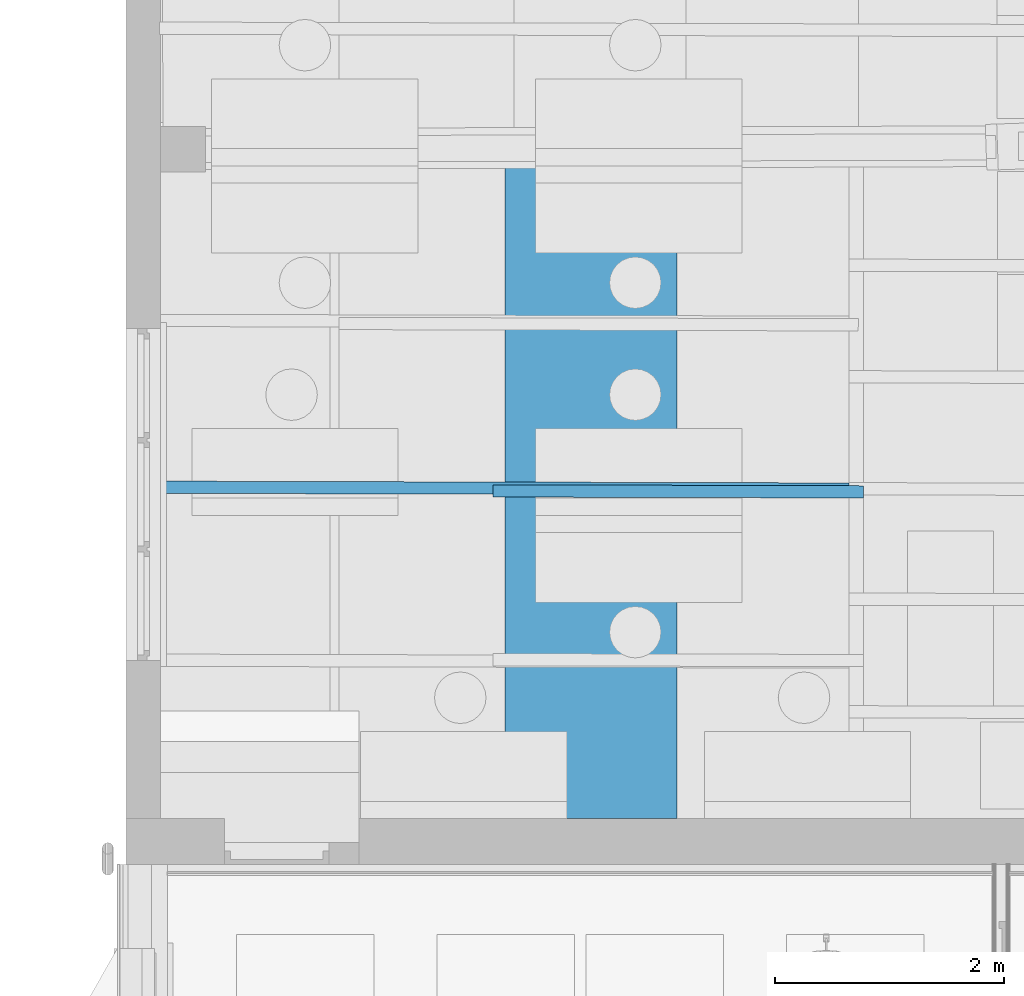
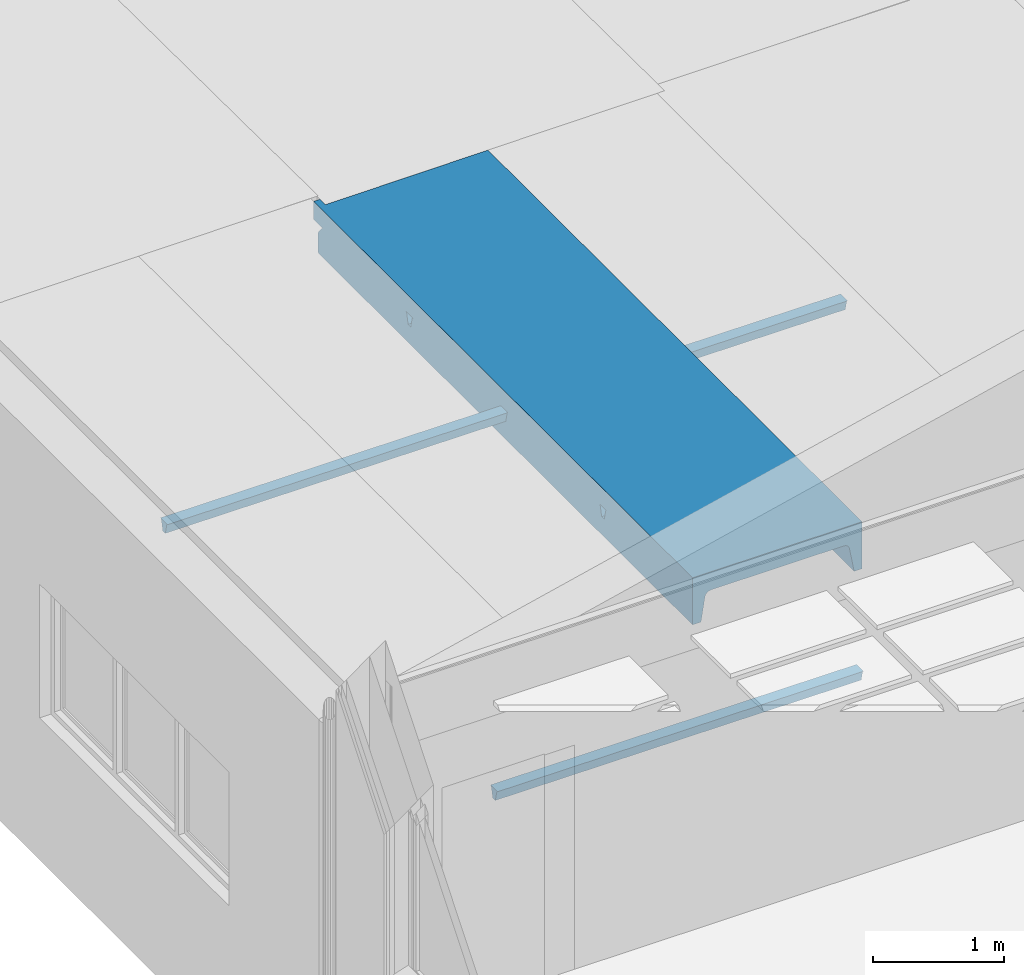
# One storey, part 15 of 153: 3 beams.
"""IFC2X3 building model written with IfcOpenShell, lengths in millimetres."""

import ifcopenshell
import ifcopenshell.guid

model = None  # the IFC model being written
_history = None  # IfcOwnerHistory: only IFC2X3 demands one
_inside = {}  # id of a spatial element -> (the spatial element, [elements in it])
_under = {}  # id of a project, library or spatial element -> (it, [spatial elements below it])
_declared = {}  # id of a project -> (the project, [libraries it declares])
_typed = {}  # id of a type object -> (the type object, [elements of that type])
_made_of = {}  # id of a material, layer set ... -> (it, [elements and type objects made of it])


def new_model(schema):
    """Start an empty IFC model of exactly this schema.

    Asked for "IFC4X3", IfcOpenShell would pick the latest addendum, in which some entities
    have other attributes; the version numbers below select the first issue.
    IFC2X3 requires an IfcOwnerHistory on every rooted entity: one is made here for all.
    """
    global model, _history
    if schema == "IFC4X3":
        model = ifcopenshell.file(schema_version=(4, 3, 0, 0))
    else:
        model = ifcopenshell.file(schema=schema)
    _inside.clear()
    _under.clear()
    _declared.clear()
    _typed.clear()
    _made_of.clear()
    _history = None
    if model.schema == "IFC2X3":
        org = make("IfcOrganization", Name="unknown")
        user = make(
            "IfcPersonAndOrganization",
            ThePerson=make("IfcPerson", FamilyName="unknown"),
            TheOrganization=org,
        )
        app = make(
            "IfcApplication",
            ApplicationDeveloper=org,
            Version="unknown",
            ApplicationFullName="unknown",
            ApplicationIdentifier="unknown",
        )
        _history = make(
            "IfcOwnerHistory",
            OwningUser=user,
            OwningApplication=app,
            ChangeAction="ADDED",
            CreationDate=0,
        )
    return model


def make(cls, **values):
    """One entity of the class cls with the attributes given. An attribute that is None is left unset."""
    return model.create_entity(
        cls, **{name: value for name, value in values.items() if value is not None}
    )


def entity(cls, *values):
    """Any entity or typed value of the class cls, its attributes in the order of the schema. None: left unset."""
    e = model.create_entity(cls)
    for i, value in enumerate(values):
        if value is not None:
            e[i] = value
    return e


def rooted(cls, **values):
    """An entity with a GlobalId (a new one), such as an element, a storey or a relation."""
    return make(cls, GlobalId=ifcopenshell.guid.new(), OwnerHistory=_history, **values)


def si_unit(unit_type, name, prefix=None):
    """IfcSIUnit, for example si_unit("LENGTHUNIT", "METRE", prefix="MILLI")."""
    return make("IfcSIUnit", UnitType=unit_type, Prefix=prefix, Name=name)


def converted_unit(unit_type, name, factor, base, dimensions=None, offset=None):
    """IfcConversionBasedUnit, such as the inch: factor (a typed value) times the base unit."""
    return make(
        "IfcConversionBasedUnit"
        if offset is None
        else "IfcConversionBasedUnitWithOffset",
        ConversionOffset=offset,
        Dimensions=None
        if dimensions is None
        else entity("IfcDimensionalExponents", *dimensions),
        UnitType=unit_type,
        Name=name,
        ConversionFactor=make(
            "IfcMeasureWithUnit", ValueComponent=factor, UnitComponent=base
        ),
    )


def derived_unit(unit_type, elements):
    """IfcDerivedUnit: a product of units, each with its exponent."""
    return make(
        "IfcDerivedUnit",
        Elements=[
            make("IfcDerivedUnitElement", Unit=unit, Exponent=power)
            for unit, power in elements
        ],
        UnitType=unit_type,
    )


def money_unit(currency):
    """IfcMonetaryUnit."""
    return make("IfcMonetaryUnit", Currency=currency)


def assignment(units):
    """IfcUnitAssignment: the units of a project."""
    return None if units is None else make("IfcUnitAssignment", Units=units)


def point(xyz):
    """IfcCartesianPoint."""
    return None if xyz is None else make("IfcCartesianPoint", Coordinates=xyz)


def direction(xyz):
    """IfcDirection."""
    return None if xyz is None else make("IfcDirection", DirectionRatios=xyz)


def frame(location, z_axis=None, x_axis=None):
    """IfcAxis2Placement3D, a coordinate frame: its origin and axes. An axis left out is left unset."""
    return make(
        "IfcAxis2Placement3D",
        Location=point(location),
        Axis=direction(z_axis),
        RefDirection=direction(x_axis),
    )


def origin_with_axes():
    """The frame at (0, 0, 0) with the z axis (0, 0, 1) and the x axis (1, 0, 0) written out."""
    return frame((0.0, 0.0, 0.0), z_axis=(0.0, 0.0, 1.0), x_axis=(1.0, 0.0, 0.0))


def place(relative_to, where):
    """IfcLocalPlacement: puts the frame where relative to a parent placement (None: the world)."""
    return make(
        "IfcLocalPlacement", PlacementRelTo=relative_to, RelativePlacement=where
    )


def context(
    kind, dimensions, precision=None, world=None, true_north=None, identifier=None
):
    """IfcGeometricRepresentationContext, for example the 3D "Model" context."""
    return make(
        "IfcGeometricRepresentationContext",
        ContextIdentifier=identifier,
        ContextType=kind,
        CoordinateSpaceDimension=dimensions,
        Precision=precision,
        WorldCoordinateSystem=world,
        TrueNorth=true_north,
    )


def subcontext(parent, identifier, kind, view, scale=None):
    """IfcGeometricRepresentationSubContext, for example "Body" below "Model"."""
    return make(
        "IfcGeometricRepresentationSubContext",
        ContextIdentifier=identifier,
        ContextType=kind,
        ParentContext=parent,
        TargetScale=scale,
        TargetView=view,
    )


def project(units=None, contexts=None):
    """IfcProject with its units and contexts."""
    return rooted(
        "IfcProject",
        Name="project",
        RepresentationContexts=contexts,
        UnitsInContext=assignment(units),
    )


def spatial(cls, under=None, at=None, **own):
    """A site, building, storey or space (cls), placed at a placement, below another one or the project."""
    s = rooted(cls, ObjectPlacement=at, **own)
    if under is not None:
        _under.setdefault(under.id(), (under, []))[1].append(s)
    return s


def faces_of(points, faces, orient=None, outer=None):
    """IfcFace entities. A face is a list of loops; a loop is a list of indices into points, from 0.

    orient and outer hold one flag for each loop. By default every Orientation is true, the
    first loop of a face is its IfcFaceOuterBound and the others are IfcFaceBound.
    """
    made = []
    for i, loops in enumerate(faces):
        bounds = []
        for j, loop in enumerate(loops):
            is_outer = j == 0 if outer is None else outer[i][j]
            bounds.append(
                make(
                    "IfcFaceOuterBound" if is_outer else "IfcFaceBound",
                    Bound=make("IfcPolyLoop", Polygon=[points[k] for k in loop]),
                    Orientation=True if orient is None else orient[i][j],
                )
            )
        made.append(make("IfcFace", Bounds=bounds))
    return made


def faceted_brep(points, faces, orient=None, outer=None, voids=None):
    """IfcFacetedBrep: a solid bounded by flat faces; with voids (closed shells), ...WithVoids."""
    shared = [point(p) for p in points]
    hull = make("IfcClosedShell", CfsFaces=faces_of(shared, faces, orient, outer))
    if voids is None:
        return make("IfcFacetedBrep", Outer=hull)
    return make(
        "IfcFacetedBrepWithVoids",
        Outer=hull,
        Voids=[
            make(cls, CfsFaces=faces_of(shared, fs, o, b)) for cls, fs, o, b in voids
        ],
    )


def shape(context_of_items, identifier, shape_type, items):
    """IfcShapeRepresentation: the items that make up one representation, for example the "Body"."""
    return make(
        "IfcShapeRepresentation",
        ContextOfItems=context_of_items,
        RepresentationIdentifier=identifier,
        RepresentationType=shape_type,
        Items=items,
    )


def material(Name=None, Category=None):
    """IfcMaterial."""
    return make("IfcMaterial", Name=Name, Category=Category)


def made_of(thing, what):
    """Note that an element or type object is made of a material, layer set ...; save() writes the relation."""
    if what is not None:
        _made_of.setdefault(what.id(), (what, []))[1].append(thing)
    return thing


def type_object(cls, material=None, **own):
    """A type object (cls), such as IfcWallType, which elements share."""
    return made_of(rooted(cls, **own), material)


def element(
    cls,
    number,
    at=None,
    inside=None,
    cuts=None,
    type_object=None,
    material=None,
    context=None,
    identifier="Body",
    shape_type=None,
    held_by="IfcProductDefinitionShape",
    body=None,
    shapes=None,
    **own,
):
    """One element of the class cls, such as IfcWall. Its Tag is "e" and its number.

    at: its placement. inside: the storey or other place that contains it. cuts: it is an
    opening in that element (IfcRelVoidsElement). A single representation is given by context,
    identifier, shape_type and body (its items); several are given by shapes. held_by: the class
    of the entity that holds the representations. save() writes the other relations.
    """
    e = rooted(cls, Tag="e%d" % number, ObjectPlacement=at, **own)
    if body is not None:
        shapes = [shape(context, identifier, shape_type, body)]
    if shapes is not None:
        e.Representation = make(held_by, Representations=shapes)
    if inside is not None:
        _inside.setdefault(inside.id(), (inside, []))[1].append(e)
    if cuts is not None:
        rooted(
            "IfcRelVoidsElement", RelatingBuildingElement=cuts, RelatedOpeningElement=e
        )
    if type_object is not None:
        _typed.setdefault(type_object.id(), (type_object, []))[1].append(e)
    return made_of(e, material)


def aggregate(whole, parts):
    """IfcRelAggregates: a whole, such as a stair, and the parts it consists of."""
    return rooted("IfcRelAggregates", RelatingObject=whole, RelatedObjects=parts)


def save(model, path):
    """Write the relations noted so far, then the file.

    IfcRelAggregates (storeys below a building ...), IfcRelContainedInSpatialStructure (elements
    in a storey), IfcRelDefinesByType, IfcRelAssociatesMaterial and IfcRelDeclares: one each for
    every whole, place, type object, material and project.
    """
    for whole, parts in _under.values():
        aggregate(whole, parts)
    for where, things in _inside.values():
        rooted(
            "IfcRelContainedInSpatialStructure",
            RelatedElements=things,
            RelatingStructure=where,
        )
    for kind, things in _typed.values():
        rooted("IfcRelDefinesByType", RelatedObjects=things, RelatingType=kind)
    for what, things in _made_of.values():
        rooted("IfcRelAssociatesMaterial", RelatedObjects=things, RelatingMaterial=what)
    for by, libraries in _declared.values():
        rooted("IfcRelDeclares", RelatingContext=by, RelatedDefinitions=libraries)
    model.write(path)


model = new_model("IFC2X3")

# Units and contexts
model_context = context("Model", 3, precision=0.01, world=origin_with_axes(), true_north=direction((0.0, 1.0)))
body_context = subcontext(model_context, "Body", "Model", "MODEL_VIEW")
ifc_project = project(units=[si_unit("LENGTHUNIT", "METRE", prefix="MILLI"), si_unit("AREAUNIT", "SQUARE_METRE"), si_unit("VOLUMEUNIT", "CUBIC_METRE"), converted_unit("PLANEANGLEUNIT", "DEGREE", entity("IfcPlaneAngleMeasure", 0.0174532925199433), si_unit("PLANEANGLEUNIT", "RADIAN"), dimensions=[0, 0, 0, 0, 0, 0, 0]), money_unit("EUR"), converted_unit("TIMEUNIT", "Year", entity("IfcTimeMeasure", 31557600.0), si_unit("TIMEUNIT", "SECOND"), dimensions=[0, 0, 1, 0, 0, 0, 0]), si_unit("MASSUNIT", "GRAM", prefix="KILO"), si_unit("THERMODYNAMICTEMPERATUREUNIT", "DEGREE_CELSIUS"), si_unit("LUMINOUSINTENSITYUNIT", "LUMEN"), si_unit("ENERGYUNIT", "JOULE", prefix="MEGA"), derived_unit("THERMALCONDUCTANCEUNIT", [(si_unit("POWERUNIT", "WATT"), 1), (si_unit("LENGTHUNIT", "METRE"), -1), (si_unit("THERMODYNAMICTEMPERATUREUNIT", "KELVIN"), -1)]), derived_unit("SPECIFICHEATCAPACITYUNIT", [(si_unit("ENERGYUNIT", "JOULE"), 1), (si_unit("MASSUNIT", "GRAM", prefix="KILO"), -1), (si_unit("THERMODYNAMICTEMPERATUREUNIT", "KELVIN"), -1)]), derived_unit("MASSDENSITYUNIT", [(si_unit("MASSUNIT", "GRAM", prefix="KILO"), 1), (si_unit("VOLUMEUNIT", "CUBIC_METRE"), -1)])], contexts=[model_context])

# Site, building, storey
site_placement = place(None, frame((0.0, 0.0, 8650.0), z_axis=(0.0, 0.0, 1.0), x_axis=(1.0, 0.0, 0.0)))
site = spatial("IfcSite", under=ifc_project, at=site_placement, Name="43301:001:0844", CompositionType="ELEMENT")
building_placement = place(site_placement, origin_with_axes())
building = spatial("IfcBuilding", under=site, at=building_placement, Name="Kuressaare Ametikooli tuulikute mehaanikute õppekorpus", CompositionType="ELEMENT")
storey_placement = place(building_placement, frame((0.0, 0.0, 4100.0), z_axis=(0.0, 0.0, 1.0), x_axis=(1.0, 0.0, 0.0)))
storey = spatial("IfcBuildingStorey", under=building, at=storey_placement, Name="2.korrus", CompositionType="ELEMENT", Elevation=4100.0)

# Beams
ifc_material = material(Name="GENEERILINE - KONSTRUKTRIOON")
beam_type_1 = type_object("IfcBeamType", Name="Precast Double Tee 2 1500 x 440", PredefinedType="NOTDEFINED")
beam_1_placement = place(storey_placement, frame((92015.87775377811, 31990.3717880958, 2975.000000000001), z_axis=(0.0, 0.0, 1.0), x_axis=(-1.0, 0.0, 0.0)))
element("IfcBeam", 1, at=beam_1_placement, inside=storey, type_object=beam_type_1, material=ifc_material, context=body_context, shape_type="Brep", body=[
    faceted_brep([(674.9999969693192, 72.8923333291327, -440.0001340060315), (750.0, 73.09863924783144, -440.0001340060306), (750.0, 73.09863924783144, -435.0000000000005), (692.555202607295, 72.94062199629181, -435.0000000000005), (674.2132934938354, 72.89016929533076, -435.0000000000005), (750.0, 5807.302864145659, -440.0001340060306), (674.9999969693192, 5807.302864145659, -440.0001340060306), (750.0, 65.11740935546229, -435.0000000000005), (750.0, 5807.302864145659, 0.0), (750.0, 0.0, 0.0), (750.0, 0.0, -169.834743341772), (750.0, 133.3990488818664, -169.834743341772), (750.0, 107.2054684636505, -196.6139201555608), (750.0, 84.3395277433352, -226.2850273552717), (750.0, 65.11794802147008, -258.4370837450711), (750.0, 1522.161301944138, -169.8663369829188), (750.0, 1513.962426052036, -175.4406717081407), (750.0, 1509.387796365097, -184.236534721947), (750.0, 1488.647764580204, -271.8138152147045), (750.0, 1448.64762175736, -271.8138152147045), (750.0, 1427.906628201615, -184.2363394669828), (750.0, 1423.331978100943, -175.4405967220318), (750.0, 1415.133168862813, -169.8663369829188), (750.0, 2969.711884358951, -175.4406717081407), (750.0, 2965.137254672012, -184.236534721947), (750.0, 2944.397222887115, -271.8138152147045), (750.0, 2904.397080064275, -271.8138152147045), (750.0, 2883.65608650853, -184.2363394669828), (750.0, 2879.081436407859, -175.4405967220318), (750.0, 2870.882627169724, -169.8663369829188), (750.0, 2977.910760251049, -169.8663369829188), (750.0, 4474.944413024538, -184.236534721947), (750.0, 4454.204381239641, -271.8138152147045), (750.0, 4414.204238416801, -271.8138152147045), (750.0, 4393.463244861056, -184.2363394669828), (750.0, 4388.888594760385, -175.4405967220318), (750.0, 4380.689785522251, -169.8663369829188), (750.0, 4487.717918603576, -169.8663369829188), (750.0, 4479.519042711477, -175.4406717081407), (692.6029683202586, 64.91064607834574, -435.0000000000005), (692.4979201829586, 82.57047049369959, -435.0000000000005), (674.2132934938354, 82.46170576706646, -435.0000000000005), (641.8171683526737, 82.2689998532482, -229.0965407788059), (641.3748147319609, 83.94822354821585, -226.2850273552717), (640.3274701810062, 89.07442831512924, -219.6283094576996), (640.3274701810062, 1436.581593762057, -219.6283094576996), (648.5381538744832, 1448.918757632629, -271.8138152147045), (648.5381538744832, 1488.918900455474, -271.8138152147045), (640.3274701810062, 1501.29940150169, -219.6283094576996), (640.3274701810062, 2892.331052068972, -219.6283094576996), (648.5381538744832, 2904.668215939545, -271.8138152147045), (648.5381538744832, 2944.668358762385, -271.8138152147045), (640.3274701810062, 2957.048859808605, -219.6283094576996), (640.3274701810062, 4402.138210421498, -219.6283094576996), (648.5381538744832, 4414.47537429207, -271.8138152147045), (648.5381538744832, 4454.475517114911, -271.8138152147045), (640.3274701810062, 4466.856018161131, -219.6283094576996), (640.3274701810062, 5807.302864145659, -219.6283094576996), (-604.4404036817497, 5807.302864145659, -171.9734684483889), (-620.1516209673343, 5807.302864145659, -180.2351660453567), (-631.90952567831, 5807.302864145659, -193.5336498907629), (-638.1842783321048, 5807.302864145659, -210.1386333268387), (-680.0000000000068, 5807.302864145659, -440.0001340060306), (-750.0, 5807.302864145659, -440.0001340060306), (-750.0, 5807.302864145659, 0.0), (634.3038197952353, 5807.302864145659, -200.1453415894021), (621.7526411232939, 5807.302864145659, -184.072435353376), (604.310838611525, 5807.302864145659, -173.5057932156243), (584.2531439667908, 5807.302864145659, -169.8234995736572), (-586.8200850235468, 5807.302864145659, -169.8234995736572), (-750.0, 73.98988010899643, 0.0), (692.4979201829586, 82.57047049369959, 0.0), (692.9890844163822, 0.0, 0.0), (692.9890844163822, 0.0, -169.834743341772), (692.4979201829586, 82.57047049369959, -169.834743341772), (584.3143895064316, 81.92694889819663, -169.834743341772), (584.3143895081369, 132.8021939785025, -169.834743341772), (604.310838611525, 129.2834550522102, -173.5057932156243), (621.7526411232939, 119.0107112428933, -184.072435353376), (631.5461665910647, 106.7787581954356, -196.6139201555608), (634.3038197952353, 104.0672139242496, -200.1453415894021), (692.4979201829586, 82.57047049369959, -228.8976532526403), (692.6029651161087, 64.91118473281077, -258.4370837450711), (584.4864821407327, 1522.603602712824, -169.8663369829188), (604.310838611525, 1517.197619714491, -173.5057932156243), (607.5046411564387, 1514.343215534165, -175.4406717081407), (621.7526411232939, 1509.815857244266, -184.072435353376), (621.8807847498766, 1509.730168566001, -184.236534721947), (634.3038197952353, 1505.929450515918, -200.1453415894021), (621.88063227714, 1428.24900080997, -184.2363394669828), (634.3038197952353, 1431.983535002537, -200.1453415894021), (621.7526411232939, 1428.164096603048, -184.072435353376), (607.5045173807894, 1423.712767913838, -175.4405967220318), (604.310838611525, 1420.875528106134, -173.5057932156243), (584.4864821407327, 1415.575469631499, -169.8663369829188), (621.7526411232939, 2965.565315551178, -184.072435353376), (621.8807847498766, 2965.479626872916, -184.236534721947), (607.5046411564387, 2970.09267384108, -175.4406717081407), (634.3038197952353, 2961.678908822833, -200.1453415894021), (634.3038197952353, 2887.732993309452, -200.1453415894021), (621.88063227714, 2883.998459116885, -184.2363394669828), (607.5045173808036, 2879.462226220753, -175.4405967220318), (621.7526411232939, 2883.91355490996, -184.072435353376), (584.4864821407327, 2871.324927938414, -169.8663369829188), (604.310838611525, 2876.624986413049, -173.5057932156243), (584.4864821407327, 2978.353061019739, -169.8663369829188), (604.310838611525, 2972.947078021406, -173.5057932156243), (621.8807847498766, 4475.286785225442, -184.236534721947), (634.3038197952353, 4471.486067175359, -200.1453415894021), (634.3038197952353, 4397.540151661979, -200.1453415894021), (621.88063227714, 4393.805617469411, -184.2363394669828), (621.7526411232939, 4393.720713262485, -184.072435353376), (607.5045173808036, 4389.269384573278, -175.4405967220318), (604.310838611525, 4386.432144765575, -173.5057932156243), (584.4864821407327, 4381.13208629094, -169.8663369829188), (584.4864821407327, 4488.160219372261, -169.8663369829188), (607.5046411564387, 4479.899832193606, -175.4406717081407), (604.310838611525, 4482.754236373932, -173.5057932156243), (621.7526411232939, 4475.372473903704, -184.072435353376), (-604.4404036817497, 4488.238157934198, -171.9734684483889), (-611.0339618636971, 4483.15612550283, -175.4406717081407), (-620.1516209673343, 4480.686927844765, -180.2351660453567), (-623.6894461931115, 4478.615314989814, -184.236534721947), (-631.90952567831, 4476.435540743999, -193.5336498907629), (-638.1842783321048, 4472.519920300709, -210.1386333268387), (-679.0903904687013, 59.96934849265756, -435.0000000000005), (-679.0903904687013, 69.1675445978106, -435.0000000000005), (-680.0000000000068, 69.16504247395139, -440.0001340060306), (-649.4040442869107, 4457.944000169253, -271.8138152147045), (-649.4040442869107, 4417.943857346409, -271.8138152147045), (-638.1842783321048, 4403.307327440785, -210.1386333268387), (-638.1842783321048, 2962.712761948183, -210.1386333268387), (-649.4040442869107, 2948.136841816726, -271.8138152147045), (-649.4040442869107, 2908.136698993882, -271.8138152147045), (-638.1842783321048, 2893.50016908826, -210.1386333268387), (-638.1842783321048, 1506.963303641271, -210.1386333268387), (-649.4040442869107, 1492.387383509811, -271.8138152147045), (-649.4040442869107, 1452.387240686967, -271.8138152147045), (-638.1842783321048, 1437.750710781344, -210.1386333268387), (-638.1842783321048, 91.78198956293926, -210.1386333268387), (-641.1215823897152, 79.32824320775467, -226.2850273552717), (-646.9705890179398, 60.08559341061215, -258.4370837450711), (-750.0, 68.97248878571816, -440.0001340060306), (-750.0000000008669, 68.97248878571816, -435.0000000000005), (-750.0, 59.71390839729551, -435.0000000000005), (-750.0, 59.71444706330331, -258.4370837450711), (-750.0, 78.93602678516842, -226.2850273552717), (-750.0, 101.8019675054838, -196.6139201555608), (-750.0, 127.9955479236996, -169.834743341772), (-750.0000000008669, 73.98988010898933, -169.834743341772), (-750.0, 1427.340418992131, -175.4405967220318), (-750.0, 1431.915069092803, -184.2363394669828), (-750.0, 1452.656062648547, -271.8138152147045), (-750.0, 1492.656205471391, -271.8138152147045), (-750.0, 1513.396237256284, -184.236534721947), (-750.0, 1517.970866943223, -175.4406717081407), (-750.0, 1526.169742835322, -169.8663369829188), (-750.0, 1419.141609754, -169.8663369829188), (-750.0, 2887.664527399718, -184.2363394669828), (-750.0, 2908.405520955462, -271.8138152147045), (-750.0, 2948.405663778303, -271.8138152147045), (-750.0, 2969.145695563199, -184.236534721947), (-750.0, 2973.720325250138, -175.4406717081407), (-750.0, 2981.919201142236, -169.8663369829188), (-750.0, 2874.891068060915, -169.8663369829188), (-750.0, 2883.089877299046, -175.4405967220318), (-750.0, 4418.212679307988, -271.8138152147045), (-750.0, 4458.212822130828, -271.8138152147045), (-750.0, 4478.952853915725, -184.236534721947), (-750.0, 4483.527483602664, -175.4406717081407), (-750.0, 4491.726359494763, -169.8663369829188), (-750.0, 4384.698226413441, -169.8663369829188), (-750.0, 4392.897035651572, -175.4405967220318), (-750.0, 4397.471685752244, -184.2363394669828), (584.2531439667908, 81.92658429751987, -169.8234995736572), (-586.8200850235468, 74.96054339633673, -169.8234995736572), (-586.9122346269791, 74.95999541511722, -169.834743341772), (-586.9122346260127, 128.5830445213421, -169.834743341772), (-604.4404036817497, 126.4279458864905, -171.9734684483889), (-604.4404036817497, 1421.85187175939, -171.9734684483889), (-587.1711639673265, 1418.706483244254, -169.8663369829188), (-587.1711639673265, 1525.734616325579, -169.8663369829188), (-604.4404036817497, 1522.681541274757, -171.9734684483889), (-604.4404036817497, 2877.601330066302, -171.9734684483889), (-587.1711639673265, 2874.455941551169, -169.8663369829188), (-587.1711639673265, 2981.48407463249, -169.8663369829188), (-604.4404036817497, 2978.430999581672, -171.9734684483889), (-604.4404036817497, 4387.408488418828, -171.9734684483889), (-587.1711639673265, 4384.263099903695, -169.8663369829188), (-587.1711639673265, 4491.291232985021, -169.8663369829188), (-631.90952567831, 4399.35799744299, -193.5336498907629), (-623.6892735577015, 4397.134146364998, -184.2363394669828), (-631.9095256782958, 2966.628382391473, -193.5336498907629), (-623.6894461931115, 2968.808156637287, -184.236534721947), (-623.6892735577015, 2887.326988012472, -184.2363394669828), (-631.9095256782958, 2889.550839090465, -193.5336498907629), (-631.9095256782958, 1510.878924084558, -193.5336498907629), (-623.6894461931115, 1513.058698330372, -184.236534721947), (-623.6892735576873, 1431.577529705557, -184.2363394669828), (-631.9095256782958, 1433.80138078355, -193.5336498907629), (-631.9095256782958, 105.2402809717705, -193.5336498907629), (-633.0735096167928, 102.2231757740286, -196.6139201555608), (-620.1516209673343, 118.2903147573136, -180.2351660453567), (-611.0338192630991, 1426.969060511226, -175.4405967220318), (-620.1516209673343, 1429.48707290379, -180.2351660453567), (-620.1516209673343, 1515.130311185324, -180.2351660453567), (-611.0339618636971, 1517.599508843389, -175.4406717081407), (-620.1516209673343, 2970.879769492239, -180.2351660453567), (-611.0339618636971, 2973.348967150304, -175.4406717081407), (-611.0338192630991, 2882.718518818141, -175.4405967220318), (-620.1516209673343, 2885.236531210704, -180.2351660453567), (-611.0338192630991, 4392.525677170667, -175.4405967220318), (-620.1516209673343, 4395.043689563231, -180.2351660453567)], [[[0, 1, 2, 3, 4]], [[5, 1, 0, 6]], [[7, 2, 1, 5, 8, 9, 10, 11, 12, 13, 14], [15, 16, 17, 18, 19, 20, 21, 22], [23, 24, 25, 26, 27, 28, 29, 30], [31, 32, 33, 34, 35, 36, 37, 38]], [[7, 39, 3, 2]], [[3, 40, 41, 4]], [[6, 0, 4, 41, 42, 43, 44, 45, 46, 47, 48, 49, 50, 51, 52, 53, 54, 55, 56, 57]], [[58, 59, 60, 61, 62, 63, 64, 8, 5, 6, 57, 65, 66, 67, 68, 69]], [[64, 70, 71, 72, 9, 8]], [[10, 9, 72, 73]], [[10, 73, 74, 75, 76, 11]], [[76, 77, 78, 79, 12, 11]], [[79, 80, 44, 43, 13, 12]], [[43, 42, 81, 82, 14, 13]], [[82, 39, 7, 14]], [[83, 84, 85, 16, 15]], [[85, 86, 87, 17, 16]], [[88, 48, 47, 18, 17, 87]], [[18, 47, 46, 19]], [[89, 20, 19, 46, 45, 90]], [[91, 92, 21, 20, 89]], [[93, 94, 22, 21, 92]], [[22, 94, 83, 15]], [[95, 96, 24, 23, 97]], [[52, 51, 25, 24, 96, 98]], [[51, 50, 26, 25]], [[27, 26, 50, 49, 99, 100]], [[101, 28, 27, 100, 102]], [[103, 29, 28, 101, 104]], [[103, 105, 30, 29]], [[106, 97, 23, 30, 105]], [[55, 32, 31, 107, 108, 56]], [[54, 33, 32, 55]], [[33, 54, 53, 109, 110, 34]], [[35, 34, 110, 111, 112]], [[36, 35, 112, 113, 114]], [[115, 37, 36, 114]], [[116, 38, 37, 115, 117]], [[107, 31, 38, 116, 118]], [[40, 3, 39, 82, 81]], [[41, 40, 81, 42]], [[80, 90, 45, 44]], [[99, 49, 48, 88]], [[53, 52, 98, 109]], [[108, 65, 57, 56]], [[59, 58, 119, 120, 121]], [[60, 59, 121, 122, 123]], [[124, 61, 60, 123]], [[125, 126, 127, 62, 61, 124, 128, 129, 130, 131, 132, 133, 134, 135, 136, 137, 138, 139, 140, 141]], [[62, 127, 142, 63]], [[63, 142, 143, 144, 145, 146, 147, 148, 149, 70, 64], [150, 151, 152, 153, 154, 155, 156, 157], [158, 159, 160, 161, 162, 163, 164, 165], [166, 167, 168, 169, 170, 171, 172, 173]], [[66, 65, 108, 107, 118]], [[67, 66, 118, 116, 117]], [[77, 76, 75, 174, 68, 67, 117, 115, 114, 113, 106, 105, 103, 104, 84, 83, 94, 93]], [[69, 68, 174, 175]], [[58, 69, 175, 176, 177, 178, 179, 180, 181, 182, 183, 184, 185, 186, 187, 188, 189, 119]], [[75, 74, 71, 70, 149, 176, 175, 174]], [[74, 73, 72, 71]], [[92, 91, 78, 77, 93]], [[90, 80, 79, 78, 91, 89]], [[86, 85, 84, 104, 101, 102]], [[88, 87, 86, 102, 100, 99]], [[96, 95, 111, 110, 109, 98]], [[97, 106, 113, 112, 111, 95]], [[120, 119, 189, 170, 169]], [[122, 121, 120, 169, 168]], [[124, 123, 122, 168, 167, 128]], [[126, 125, 144, 143]], [[126, 143, 142, 127]], [[166, 129, 128, 167]], [[190, 130, 129, 166, 173, 191]], [[190, 192, 131, 130]], [[132, 131, 192, 193, 161, 160]], [[160, 159, 133, 132]], [[194, 195, 134, 133, 159, 158]], [[134, 195, 196, 135]], [[153, 136, 135, 196, 197, 154]], [[136, 153, 152, 137]], [[151, 198, 199, 138, 137, 152]], [[138, 199, 200, 201, 139]], [[201, 147, 146, 140, 139]], [[141, 140, 146, 145]], [[145, 144, 125, 141]], [[147, 201, 200, 202, 178, 177, 148]], [[148, 177, 176, 149]], [[151, 150, 203, 204, 198]], [[155, 154, 197, 205, 206]], [[156, 155, 206, 182, 181]], [[180, 157, 156, 181]], [[150, 157, 180, 179, 203]], [[161, 193, 207, 208, 162]], [[162, 208, 186, 185, 163]], [[164, 163, 185, 184]], [[164, 184, 183, 209, 165]], [[165, 209, 210, 194, 158]], [[170, 189, 188, 171]], [[188, 187, 211, 172, 171]], [[211, 212, 191, 173, 172]], [[203, 179, 178, 202, 204]], [[182, 206, 205, 210, 209, 183]], [[208, 207, 212, 211, 187, 186]], [[193, 192, 190, 191, 212, 207]], [[205, 197, 196, 195, 194, 210]], [[198, 204, 202, 200, 199]]]),
])
beam_type_2 = type_object("IfcBeamType", Name="Precast Single Tee 2 107 x 102", PredefinedType="NOTDEFINED")
beam_2_placement = place(storey_placement, frame((88258.75644683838, 29074.01100639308, 2805.133663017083), z_axis=(0.0, 0.0, 1.0), x_axis=(-0.002672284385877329, -0.9999964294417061, 0.0)))
element("IfcBeam", 2, at=beam_2_placement, inside=storey, type_object=beam_type_2, material=ifc_material, context=body_context, shape_type="Brep", body=[
    faceted_brep([(45.31502884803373, 0.0, -5.574334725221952), (45.31502884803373, 6006.888552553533, -5.574334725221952), (53.51387546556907, 6006.888552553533, 0.0), (53.51387546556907, 0.0, 0.0), (40.74041549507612, 0.0, -14.37019773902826), (40.74041549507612, 6006.888552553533, -14.37019773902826), (20.00045776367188, 6006.888552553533, -101.9474782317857), (-19.99954223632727, 6006.888552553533, -101.9474782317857), (-40.7404617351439, 6006.888552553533, -14.37000248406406), (-45.31509550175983, 6006.88855255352, -5.574259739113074), (-53.51387546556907, 6006.88855255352, 0.0), (-53.51387546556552, 0.0, 0.0), (-45.31509550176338, 0.0, -5.574259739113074), (-40.7404617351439, 0.0, -14.37000248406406), (-19.99954223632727, 0.0, -101.9474782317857), (20.00045776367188, 0.0, -101.9474782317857)], [[[0, 1, 2, 3]], [[4, 5, 1, 0]], [[2, 1, 5, 6, 7, 8, 9, 10]], [[3, 2, 10, 11]], [[4, 0, 3, 11, 12, 13, 14, 15]], [[15, 6, 5, 4]], [[14, 7, 6, 15]], [[13, 8, 7, 14]], [[12, 9, 8, 13]], [[11, 10, 9, 12]]]),
])
beam_3_placement = place(storey_placement, frame((91159.67655181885, 29041.95997371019, -689.9999999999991), z_axis=(0.0, 0.0, 1.0), x_axis=(-0.002672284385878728, -0.9999964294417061, 0.0)))
element("IfcBeam", 3, at=beam_3_placement, inside=storey, type_object=beam_type_2, material=ifc_material, context=body_context, shape_type="Brep", body=[
    faceted_brep([(45.31502884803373, 0.0, -5.574334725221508), (45.31502884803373, 3233.087410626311, -5.574334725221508), (53.51387546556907, 3233.087410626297, 0.0), (53.51387546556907, 0.0, 0.0), (40.74041549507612, 0.0, -14.37019773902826), (40.74041549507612, 3233.087410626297, -14.37019773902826), (20.00045776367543, 3233.087410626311, -101.9474782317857), (-19.99954223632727, 3233.087410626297, -101.9474782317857), (-40.74046173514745, 3233.087410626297, -14.3700024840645), (-45.31509550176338, 3233.087410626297, -5.574259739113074), (-53.51387546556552, 3233.087410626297, 0.0), (-53.51387546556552, 0.0, 0.0), (-45.31509550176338, 0.0, -5.574259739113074), (-40.7404617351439, 0.0, -14.3700024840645), (-19.99954223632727, 0.0, -101.9474782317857), (20.00045776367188, 0.0, -101.9474782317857)], [[[0, 1, 2, 3]], [[4, 5, 1, 0]], [[2, 1, 5, 6, 7, 8, 9, 10]], [[3, 2, 10, 11]], [[4, 0, 3, 11, 12, 13, 14, 15]], [[15, 6, 5, 4]], [[14, 7, 6, 15]], [[13, 8, 7, 14]], [[12, 9, 8, 13]], [[11, 10, 9, 12]]]),
])

save(model, "model.ifc")
